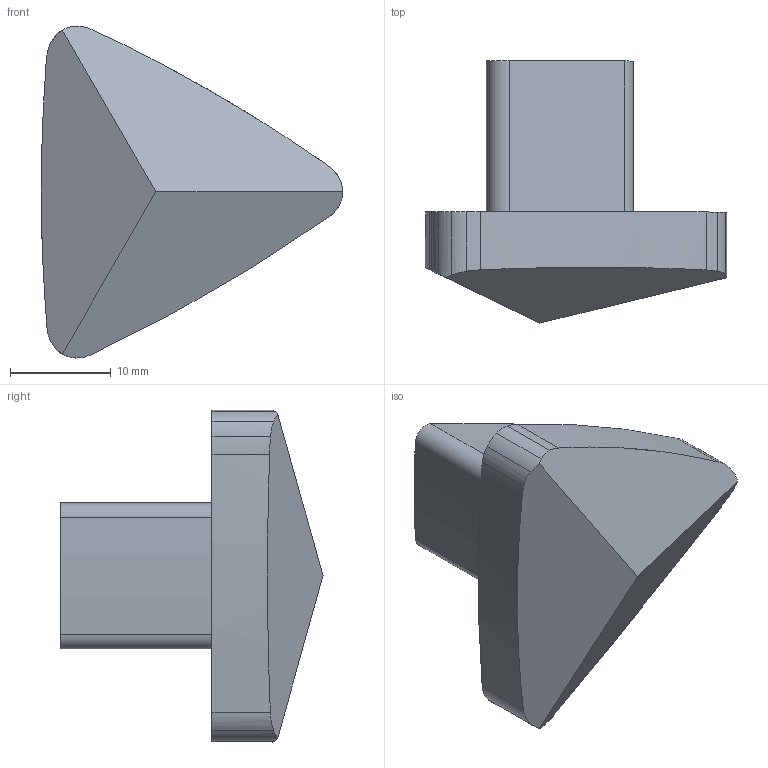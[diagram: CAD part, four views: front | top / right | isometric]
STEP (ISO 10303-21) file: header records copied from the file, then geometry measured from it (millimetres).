
FILE_DESCRIPTION( ( '' ), '1' );
FILE_NAME( 'C:/Documents and Settings/Nikhil/Desktop/Nik/Done/9113425.stp', '2013-10-23T09:51:06', ( '' ), ( '' ), ' ', ' ', ' ' );
FILE_SCHEMA( ( 'automotive_design' ) );
Length unit declared in the file: millimetre
Products named in the file (1): 1
Bounding box: 29.94 x 26.03 x 32.97 mm (x, y, z)
Volume: 6483 mm3; surface area: 2673.2 mm2
Topology: 1 solids, 1 shells, 31 faces, 81 edges, 54 vertices
Faces by surface type: cylinder 21, plane 10
Entity records: 1931 total; most frequent: DIRECTION 194, STYLED_ITEM 167, PRESENTATION_STYLE_ASSIGNMENT 167, CARTESIAN_POINT 167, COLOUR_RGB 167, ORIENTED_EDGE 162, EDGE_CURVE 81, AXIS2_PLACEMENT_3D 81
